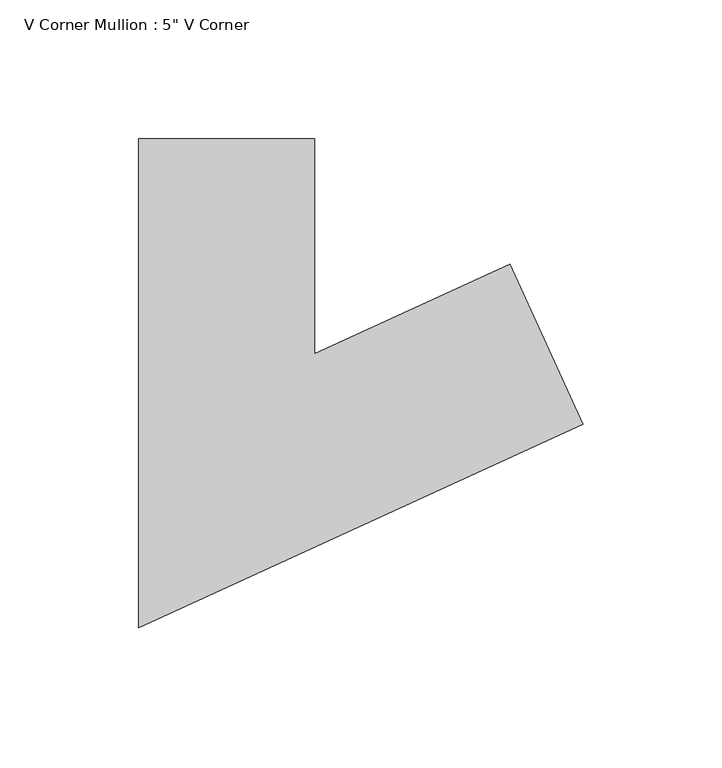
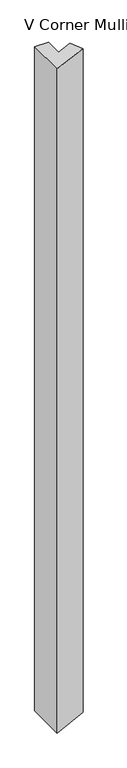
"""IFC4 building model written with IfcOpenShell, lengths in millimetres: member geometry."""

from ifc_helpers import new_model, si_unit, origin, place, context, project, spatial, faceted_brep, source, transform, mapped, element, save


def member_0d0bfa09(model_context):
    return source(origin(), model_context, "Body", "Brep", [
        faceted_brep([(87.9205542, -39.5195451, -3195.7972663), (-72.5228811, -112.9476953, -3195.7972663), (-72.5228811, 63.5, -3195.7972663), (-9.0228811, 63.5, -3195.7972663), (-9.0228811, -14.0523047, -3195.7972663), (61.49523, 18.2208415, -3195.7972663), (61.49523, 18.2208415, -1.2684527), (87.9205542, -39.5195451, -1.8135239), (-9.0228811, -14.0523047, 0.1861136), (-9.0228811, 63.5, 0.1861136), (-72.5228811, 63.5, 1.4959184), (-72.5228811, -112.9476953, 1.4959184)], [[[0, 1, 2, 3, 4, 5]], [[6, 7, 0, 5]], [[8, 6, 5, 4]], [[9, 8, 4, 3]], [[10, 9, 3, 2]], [[11, 10, 2, 1]], [[7, 11, 1, 0]], [[7, 6, 8, 9, 10, 11]]]),
    ])


if __name__ == "__main__":
    model = new_model("IFC4")
    model_context = context("Model", 3, world=origin())
    ifc_project = project(units=[si_unit("LENGTHUNIT", "METRE", prefix="MILLI")], contexts=[model_context])
    site = spatial("IfcSite", under=ifc_project)
    building = spatial("IfcBuilding", under=site)
    placement = place(None, origin())
    member_shape = member_0d0bfa09(model_context)
    element("IfcMember", 1, ObjectType="V Corner Mullion : 5\" V Corner", at=placement, inside=building, context=model_context, shape_type="MappedRepresentation", body=[
        mapped(member_shape, transform((0.0, 0.0, 0.0), x_axis=(1.0, 0.0, 0.0), y_axis=(0.0, 1.0, 0.0), z_axis=(0.0, 0.0, 1.0))),
    ])
    save(model, "model.ifc")
